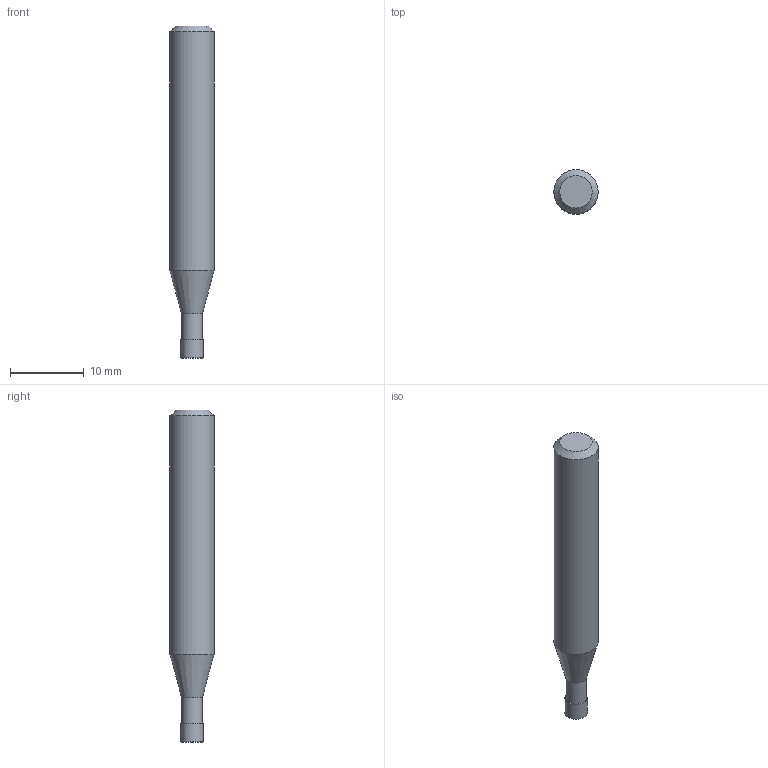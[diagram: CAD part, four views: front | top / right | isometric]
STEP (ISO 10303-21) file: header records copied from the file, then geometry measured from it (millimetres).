
FILE_DESCRIPTION((''),'2;1');
FILE_NAME('C:\Users\nsx150\AppData\Local\Temp\Mastercam 2021\8MCJJJGUOI\TEMP.step','2022-10-12T10:45:14',(''),(''),'STEP Write','Mastercam 2021 ... CNC Software, Inc.','');
FILE_SCHEMA(('AUTOMOTIVE_DESIGN'));
Length unit declared in the file: millimetre
Products named in the file (1): None
Bounding box: 6 x 6 x 45 mm (x, y, z)
Volume: 1065.2 mm3; surface area: 802.8 mm2
Topology: 2 solids, 2 shells, 10 faces, 14 edges, 8 vertices
Faces by surface type: plane 4, cylinder 3, cone 2, torus 1
Full cylindrical faces by diameter (mm): 2.85 x1, 3 x1, 6 x1
Entity records: 232 total; most frequent: DIRECTION 40, CARTESIAN_POINT 28, AXIS2_PLACEMENT_3D 20, ORIENTED_EDGE 16, EDGE_LOOP 16, STYLED_ITEM 13, ADVANCED_FACE 10, FACE_BOUND 10
